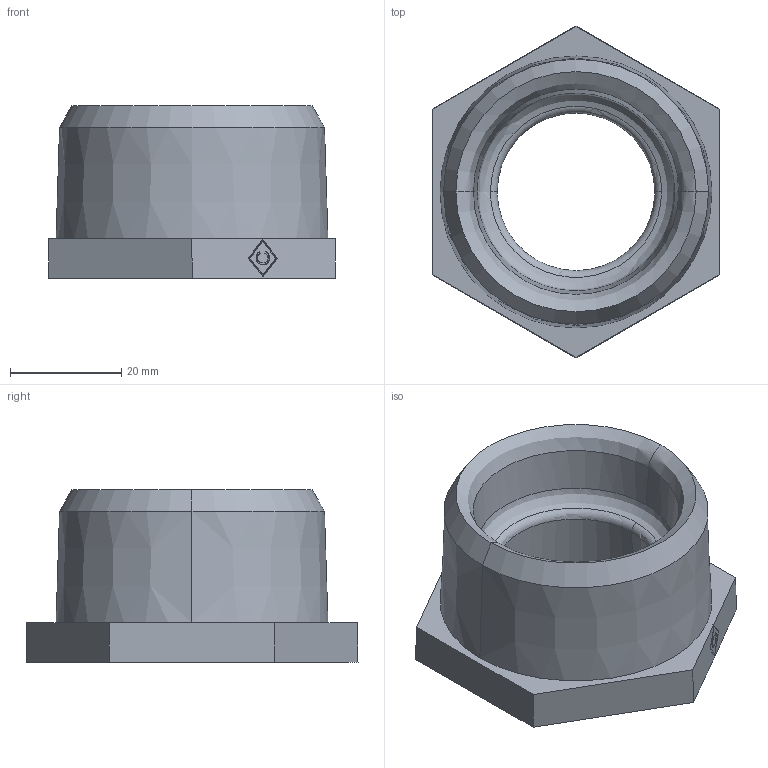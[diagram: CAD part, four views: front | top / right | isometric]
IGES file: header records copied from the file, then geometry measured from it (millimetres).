
Global section: file name: No Iges File Name specified; native system: AutoDesk Inventor R12.0; preprocessor: AutoDesk Inventor Iges Exporter R12.0; date: 20090915.151111; units: millimetre
Bounding box: 51.7 x 59.7 x 31 mm (x, y, z)
Volume: 32877.5 mm3; surface area: 10365.7 mm2
Topology: 1 solids, 1 shells, 44 faces, 105 edges, 66 vertices
Faces by surface type: plane 21, bspline 11, revolution 6, cone 4, torus 2
